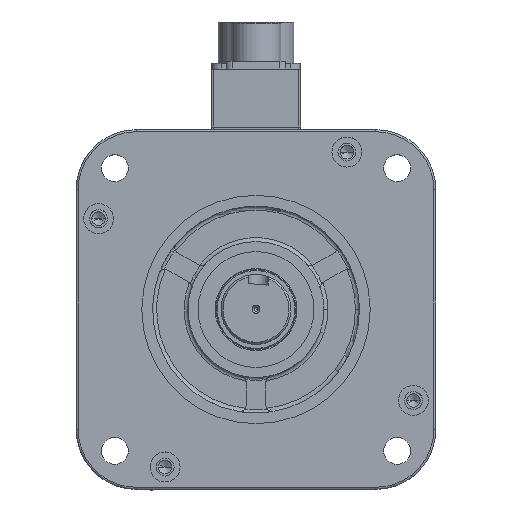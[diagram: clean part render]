
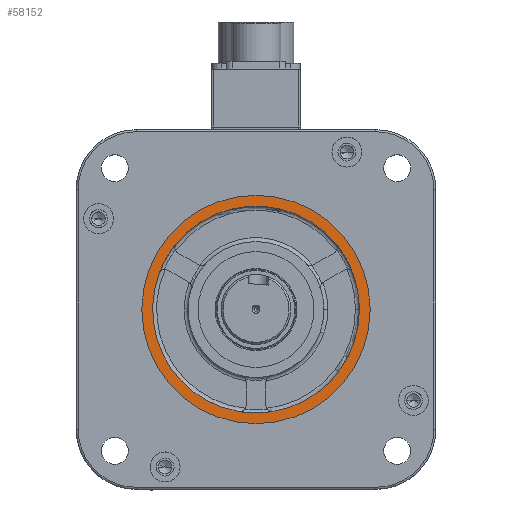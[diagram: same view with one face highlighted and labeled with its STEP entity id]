
A CAD part, top view. The second image highlights one B-rep face of the part: STEP entity #58152.
In plain terms, the highlighted planar face has unit normal (0, 0, 1).
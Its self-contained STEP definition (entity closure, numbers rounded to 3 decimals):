
#1347 = CIRCLE ( 'NONE', #49163, 51.75 ) ;
#2670 = CARTESIAN_POINT ( 'NONE',  ( -48.455, 18.17, 21. ) ) ;
#2871 = CARTESIAN_POINT ( 'NONE',  ( 0., 0., 21. ) ) ;
#3747 = VERTEX_POINT ( 'NONE', #43472 ) ;
#4958 = DIRECTION ( 'NONE',  ( 0., 0., 1. ) ) ;
#6753 = CARTESIAN_POINT ( 'NONE',  ( -57.15, 0., 21. ) ) ;
#8583 = VERTEX_POINT ( 'NONE', #6753 ) ;
#9446 = VERTEX_POINT ( 'NONE', #2670 ) ;
#9532 = DIRECTION ( 'NONE',  ( 0., 0., 1. ) ) ;
#9701 = EDGE_CURVE ( 'NONE', #24624, #24188, #31250, .T. ) ;
#9840 = ORIENTED_EDGE ( 'NONE', *, *, #36600, .F. ) ;
#10662 = DIRECTION ( 'NONE',  ( 0., 0., 1. ) ) ;
#10679 = EDGE_CURVE ( 'NONE', #13556, #8583, #18803, .T. ) ;
#11635 = DIRECTION ( 'NONE',  ( 1., 0., 0. ) ) ;
#11925 = CIRCLE ( 'NONE', #26272, 51.75 ) ;
#12157 = EDGE_LOOP ( 'NONE', ( #52438, #51828 ) ) ;
#12499 = ORIENTED_EDGE ( 'NONE', *, *, #54041, .F. ) ;
#12544 = DIRECTION ( 'NONE',  ( 1., 0., 0. ) ) ;
#13037 = CIRCLE ( 'NONE', #54134, 51.75 ) ;
#13260 = VERTEX_POINT ( 'NONE', #45894 ) ;
#13415 = AXIS2_PLACEMENT_3D ( 'NONE', #26016, #53837, #12544 ) ;
#13556 = VERTEX_POINT ( 'NONE', #17410 ) ;
#14880 = EDGE_CURVE ( 'NONE', #24188, #13260, #37844, .T. ) ;
#16994 = CARTESIAN_POINT ( 'NONE',  ( 0., 0., 21. ) ) ;
#17410 = CARTESIAN_POINT ( 'NONE',  ( 57.15, 0., 21. ) ) ;
#18012 = CARTESIAN_POINT ( 'NONE',  ( 0., 0., 21. ) ) ;
#18182 = VERTEX_POINT ( 'NONE', #45178 ) ;
#18803 = CIRCLE ( 'NONE', #18938, 57.15 ) ;
#18872 = DIRECTION ( 'NONE',  ( 0., 0., 1. ) ) ;
#18938 = AXIS2_PLACEMENT_3D ( 'NONE', #32295, #9532, #40954 ) ;
#20663 = DIRECTION ( 'NONE',  ( 0., 0., 1. ) ) ;
#21849 = AXIS2_PLACEMENT_3D ( 'NONE', #2871, #34931, #58231 ) ;
#22934 = ORIENTED_EDGE ( 'NONE', *, *, #27341, .F. ) ;
#23265 = DIRECTION ( 'NONE',  ( 1., 0., 0. ) ) ;
#24188 = VERTEX_POINT ( 'NONE', #49482 ) ;
#24624 = VERTEX_POINT ( 'NONE', #39542 ) ;
#25373 = PLANE ( 'NONE',  #46833 ) ;
#25453 = EDGE_CURVE ( 'NONE', #8583, #13556, #27695, .T. ) ;
#26016 = CARTESIAN_POINT ( 'NONE',  ( 0., 0., 21. ) ) ;
#26272 = AXIS2_PLACEMENT_3D ( 'NONE', #45976, #4958, #23265 ) ;
#27341 = EDGE_CURVE ( 'NONE', #18182, #9446, #43941, .T. ) ;
#27685 = CARTESIAN_POINT ( 'NONE',  ( 0., 0., 21. ) ) ;
#27695 = CIRCLE ( 'NONE', #21849, 57.15 ) ;
#29578 = FACE_OUTER_BOUND ( 'NONE', #12157, .T. ) ;
#30147 = DIRECTION ( 'NONE',  ( 1., 0., 0. ) ) ;
#30443 = DIRECTION ( 'NONE',  ( 0., 0., 1. ) ) ;
#31159 = DIRECTION ( 'NONE',  ( 0., 0., 1. ) ) ;
#31250 = CIRCLE ( 'NONE', #35045, 51.75 ) ;
#32295 = CARTESIAN_POINT ( 'NONE',  ( 0., 0., 21. ) ) ;
#34288 = DIRECTION ( 'NONE',  ( 1., 0., 0. ) ) ;
#34631 = FACE_BOUND ( 'NONE', #43379, .T. ) ;
#34931 = DIRECTION ( 'NONE',  ( 0., 0., 1. ) ) ;
#35045 = AXIS2_PLACEMENT_3D ( 'NONE', #46965, #18872, #55640 ) ;
#36600 = EDGE_CURVE ( 'NONE', #45005, #24624, #1347, .T. ) ;
#37541 = CIRCLE ( 'NONE', #49942, 51.75 ) ;
#37840 = ORIENTED_EDGE ( 'NONE', *, *, #40241, .F. ) ;
#37844 = CIRCLE ( 'NONE', #46452, 51.75 ) ;
#39542 = CARTESIAN_POINT ( 'NONE',  ( 8.492, -51.048, 21. ) ) ;
#40241 = EDGE_CURVE ( 'NONE', #3747, #18182, #37541, .T. ) ;
#40954 = DIRECTION ( 'NONE',  ( 1., 0., 0. ) ) ;
#43379 = EDGE_LOOP ( 'NONE', ( #47889, #56187, #56544, #9840, #12499, #22934, #37840 ) ) ;
#43472 = CARTESIAN_POINT ( 'NONE',  ( 39.963, 32.879, 21. ) ) ;
#43941 = CIRCLE ( 'NONE', #13415, 51.75 ) ;
#45005 = VERTEX_POINT ( 'NONE', #56165 ) ;
#45178 = CARTESIAN_POINT ( 'NONE',  ( -39.963, 32.879, 21. ) ) ;
#45894 = CARTESIAN_POINT ( 'NONE',  ( 48.455, 18.17, 21. ) ) ;
#45976 = CARTESIAN_POINT ( 'NONE',  ( 0., 0., 21. ) ) ;
#46452 = AXIS2_PLACEMENT_3D ( 'NONE', #55952, #20663, #11635 ) ;
#46833 = AXIS2_PLACEMENT_3D ( 'NONE', #16994, #30443, #30147 ) ;
#46965 = CARTESIAN_POINT ( 'NONE',  ( 0., 0., 21. ) ) ;
#47889 = ORIENTED_EDGE ( 'NONE', *, *, #52653, .F. ) ;
#49163 = AXIS2_PLACEMENT_3D ( 'NONE', #57011, #10662, #34288 ) ;
#49482 = CARTESIAN_POINT ( 'NONE',  ( 51.75, 0., 21. ) ) ;
#49942 = AXIS2_PLACEMENT_3D ( 'NONE', #27685, #50997, #51302 ) ;
#50997 = DIRECTION ( 'NONE',  ( 0., 0., 1. ) ) ;
#51302 = DIRECTION ( 'NONE',  ( 1., 0., 0. ) ) ;
#51828 = ORIENTED_EDGE ( 'NONE', *, *, #10679, .T. ) ;
#52438 = ORIENTED_EDGE ( 'NONE', *, *, #25453, .T. ) ;
#52653 = EDGE_CURVE ( 'NONE', #13260, #3747, #11925, .T. ) ;
#53837 = DIRECTION ( 'NONE',  ( 0., 0., 1. ) ) ;
#54041 = EDGE_CURVE ( 'NONE', #9446, #45005, #13037, .T. ) ;
#54134 = AXIS2_PLACEMENT_3D ( 'NONE', #18012, #31159, #58663 ) ;
#55640 = DIRECTION ( 'NONE',  ( 1., 0., 0. ) ) ;
#55952 = CARTESIAN_POINT ( 'NONE',  ( 0., 0., 21. ) ) ;
#56165 = CARTESIAN_POINT ( 'NONE',  ( -8.492, -51.048, 21. ) ) ;
#56187 = ORIENTED_EDGE ( 'NONE', *, *, #14880, .F. ) ;
#56544 = ORIENTED_EDGE ( 'NONE', *, *, #9701, .F. ) ;
#57011 = CARTESIAN_POINT ( 'NONE',  ( 0., 0., 21. ) ) ;
#58152 = ADVANCED_FACE ( 'NONE', ( #34631, #29578 ), #25373, .T. ) ;
#58231 = DIRECTION ( 'NONE',  ( 1., 0., 0. ) ) ;
#58663 = DIRECTION ( 'NONE',  ( 1., 0., 0. ) ) ;
